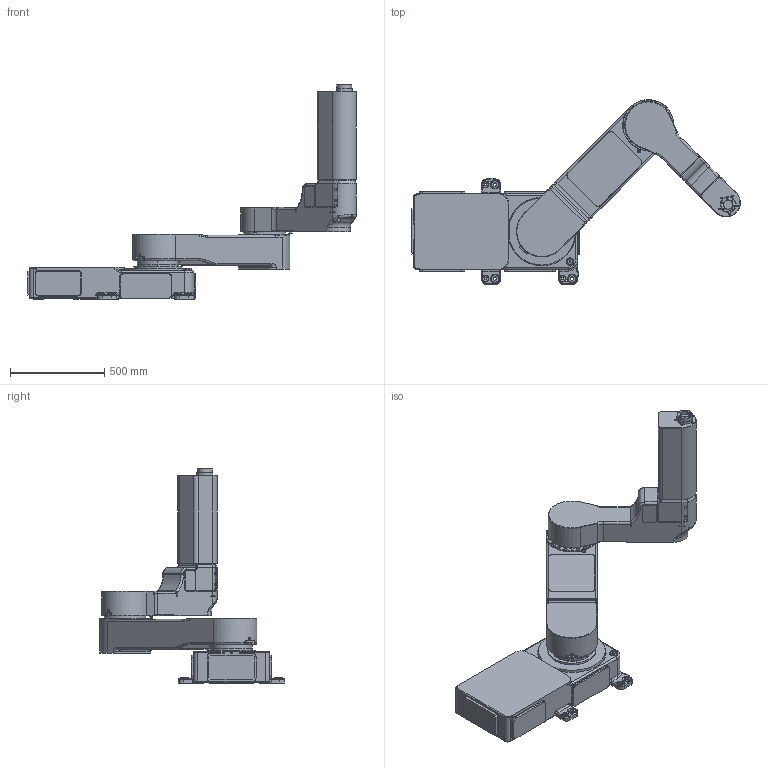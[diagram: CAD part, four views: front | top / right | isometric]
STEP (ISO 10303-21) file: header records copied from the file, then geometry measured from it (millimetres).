
FILE_DESCRIPTION(/* description */ (''),/* implementation_level */ '2;1');
FILE_NAME(/* name */ 'MPO10.stp',/* time_stamp */ '2015-08-03T11:57:56+02:00',/* author */ (''),/* organization */ (''),/* preprocessor_version */ 'ST-DEVELOPER v14',/* originating_system */ 'SIEMENS PLM Software NX 8.0',/* authorisation */ '');
FILE_SCHEMA (('AUTOMOTIVE_DESIGN { 1 0 10303 214 3 1 1 1 }'));
Length unit declared in the file: millimetre
Products named in the file (4): MPO10_U_ARM_R_AXIS_ASM; MPO10_L-ARM_ASSY_ASM; MPO10_S-BASE_ASSY_ASM; MP010
Assembly tree (3 placements, depth 2):
  MP010
    MPO10_S-BASE_ASSY_ASM
    MPO10_L-ARM_ASSY_ASM
    MPO10_U_ARM_R_AXIS_ASM
Bounding box: 1746.26 x 980.55 x 1140 mm (x, y, z)
Volume: 139380906.8 mm3; surface area: 3354902.3 mm2
Topology: 3 solids, 31 shells, 1145 faces, 2821 edges, 1789 vertices
Faces by surface type: cylinder 431, plane 430, torus 128, cone 98, bspline 54, sphere 4
Full cylindrical faces by diameter (mm): 3.3 x12, 4 x2, 4.2 x4, 4.48 x1, 5 x8, 5.3 x2, 5.35 x1, 6 x1, 6.4 x1, 6.6 x2, 6.8 x9, 8.5 x2, 8.8 x1, 9 x9, 10 x1, 10.5 x3, 12 x4, 15 x2, 16 x3, 18 x4, 20 x3, 48 x1, 75 x1, 80 x1, 84 x2, 84.8 x1, 85 x1, 85.5 x1, 110 x1, 138.845 x1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
Entity records: 36830 total; most frequent: CARTESIAN_POINT 10431, DIRECTION 5734, ORIENTED_EDGE 5116, EDGE_CURVE 2558, AXIS2_PLACEMENT_3D 2254, VERTEX_POINT 1719, EDGE_LOOP 1389, LINE 1226
